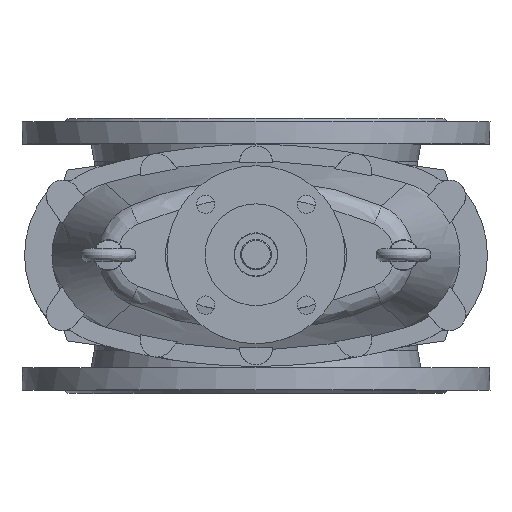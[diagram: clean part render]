
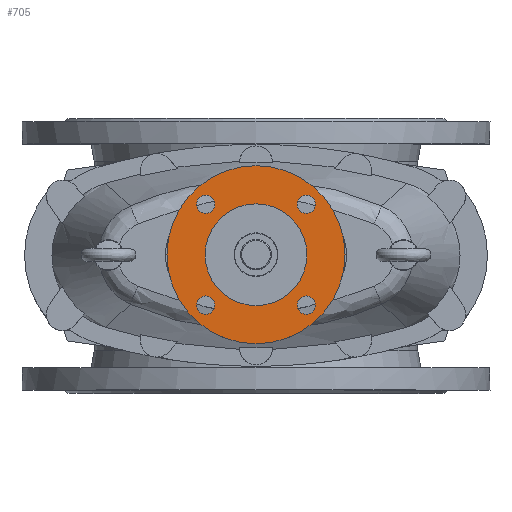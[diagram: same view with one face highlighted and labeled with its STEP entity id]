
A CAD part, top view. The second image highlights one B-rep face of the part: STEP entity #705.
In plain terms, the highlighted planar face has unit normal (0, 0, 1).
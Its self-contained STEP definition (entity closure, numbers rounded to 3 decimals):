
#705=ADVANCED_FACE('',(#3591,#3593,#3595,#3597,#3599,#3601),#3603,.T.);
#3591=FACE_BOUND('',#3592,.T.);
#3592=EDGE_LOOP('',(#21933));
#3593=FACE_BOUND('',#3594,.T.);
#3594=EDGE_LOOP('',(#21934));
#3595=FACE_BOUND('',#3596,.T.);
#3596=EDGE_LOOP('',(#21935));
#3597=FACE_BOUND('',#3598,.T.);
#3598=EDGE_LOOP('',(#21936));
#3599=FACE_BOUND('',#3600,.T.);
#3600=EDGE_LOOP('',(#21937));
#3601=FACE_BOUND('',#3602,.T.);
#3602=EDGE_LOOP('',(#21938));
#3603=PLANE('',#3604);
#3604=AXIS2_PLACEMENT_3D('',#3605,#3606,#3607);
#3605=CARTESIAN_POINT('',(0.,0.,719.5));
#3606=DIRECTION('',(0.,0.,1.));
#3607=DIRECTION('',(-1.,0.,0.));
#21933=ORIENTED_EDGE('',*,*,#23487,.F.);
#21934=ORIENTED_EDGE('',*,*,#23488,.T.);
#21935=ORIENTED_EDGE('',*,*,#23489,.T.);
#21936=ORIENTED_EDGE('',*,*,#23490,.T.);
#21937=ORIENTED_EDGE('',*,*,#23493,.T.);
#21938=ORIENTED_EDGE('',*,*,#23491,.T.);
#23487=EDGE_CURVE('',#24476,#24476,#24477,.T.);
#23488=EDGE_CURVE('',#24478,#24478,#24479,.F.);
#23489=EDGE_CURVE('',#24480,#24480,#24481,.F.);
#23490=EDGE_CURVE('',#24482,#24482,#24483,.F.);
#23491=EDGE_CURVE('',#24484,#24484,#24485,.F.);
#23493=EDGE_CURVE('',#24488,#24488,#24489,.T.);
#24476=VERTEX_POINT('',#26822);
#24477=CIRCLE('',#26823,87.5);
#24478=VERTEX_POINT('',#26827);
#24479=CIRCLE('',#26828,9.);
#24480=VERTEX_POINT('',#26832);
#24481=CIRCLE('',#26833,9.);
#24482=VERTEX_POINT('',#26837);
#24483=CIRCLE('',#26838,9.);
#24484=VERTEX_POINT('',#26842);
#24485=CIRCLE('',#26843,9.);
#24488=VERTEX_POINT('',#26852);
#24489=CIRCLE('',#26853,50.);
#26822=CARTESIAN_POINT('',(-87.5,0.,719.5));
#26823=AXIS2_PLACEMENT_3D('',#26824,#26825,#26826);
#26824=CARTESIAN_POINT('',(0.,0.,719.5));
#26825=DIRECTION('',(0.,0.,-1.));
#26826=DIRECTION('',(-1.,0.,0.));
#26827=CARTESIAN_POINT('',(49.497,-40.497,719.5));
#26828=AXIS2_PLACEMENT_3D('',#26829,#26830,#26831);
#26829=CARTESIAN_POINT('',(49.497,-49.497,719.5));
#26830=DIRECTION('',(0.,0.,1.));
#26831=DIRECTION('',(0.,1.,0.));
#26832=CARTESIAN_POINT('',(-40.497,-49.497,719.5));
#26833=AXIS2_PLACEMENT_3D('',#26834,#26835,#26836);
#26834=CARTESIAN_POINT('',(-49.497,-49.497,719.5));
#26835=DIRECTION('',(0.,0.,1.));
#26836=DIRECTION('',(1.,0.,0.));
#26837=CARTESIAN_POINT('',(-49.497,40.497,719.5));
#26838=AXIS2_PLACEMENT_3D('',#26839,#26840,#26841);
#26839=CARTESIAN_POINT('',(-49.497,49.497,719.5));
#26840=DIRECTION('',(0.,0.,1.));
#26841=DIRECTION('',(0.,-1.,0.));
#26842=CARTESIAN_POINT('',(40.497,49.497,719.5));
#26843=AXIS2_PLACEMENT_3D('',#26844,#26845,#26846);
#26844=CARTESIAN_POINT('',(49.497,49.497,719.5));
#26845=DIRECTION('',(0.,0.,1.));
#26846=DIRECTION('',(-1.,0.,0.));
#26852=CARTESIAN_POINT('',(-50.,0.,719.5));
#26853=AXIS2_PLACEMENT_3D('',#26854,#26855,#26856);
#26854=CARTESIAN_POINT('',(0.,0.,719.5));
#26855=DIRECTION('',(0.,0.,-1.));
#26856=DIRECTION('',(-1.,0.,0.));
